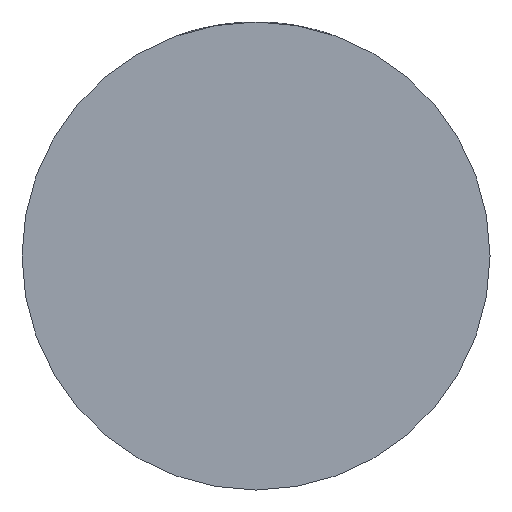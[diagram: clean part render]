
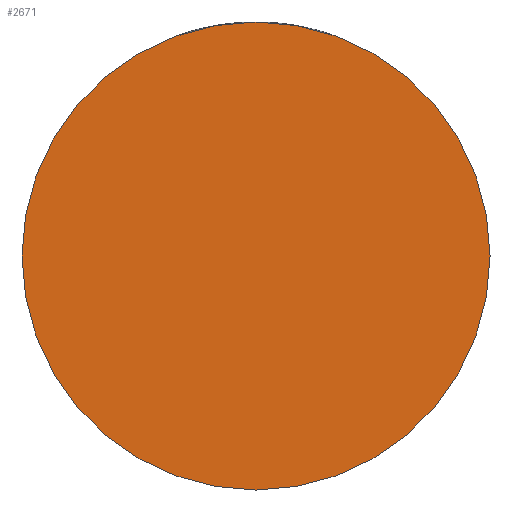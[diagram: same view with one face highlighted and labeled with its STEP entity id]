
A CAD part, front view. The second image highlights one B-rep face of the part: STEP entity #2671.
In plain terms, the highlighted planar face has unit normal (0, -1, 0).
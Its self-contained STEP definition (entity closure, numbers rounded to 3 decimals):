
#72 = EDGE_CURVE ( 'NONE', #3338, #3593, #4277, .T. ) ;
#186 = CIRCLE ( 'NONE', #3207, 26.5 ) ;
#349 = CARTESIAN_POINT ( 'NONE',  ( 0., -22., 0. ) ) ;
#928 = CARTESIAN_POINT ( 'NONE',  ( -26.5, -22., 0. ) ) ;
#1354 = DIRECTION ( 'NONE',  ( 1., 0., 0. ) ) ;
#1406 = FACE_OUTER_BOUND ( 'NONE', #2893, .T. ) ;
#1617 = DIRECTION ( 'NONE',  ( 0., -1., 0. ) ) ;
#1878 = CARTESIAN_POINT ( 'NONE',  ( 26.5, -22., 0. ) ) ;
#2061 = DIRECTION ( 'NONE',  ( 0., -1., 0. ) ) ;
#2337 = CARTESIAN_POINT ( 'NONE',  ( 0., -22., 0. ) ) ;
#2671 = ADVANCED_FACE ( 'NONE', ( #1406 ), #3367, .T. ) ;
#2677 = AXIS2_PLACEMENT_3D ( 'NONE', #3641, #1617, #1354 ) ;
#2705 = DIRECTION ( 'NONE',  ( 0., -1., 0. ) ) ;
#2733 = DIRECTION ( 'NONE',  ( 1., 0., 0. ) ) ;
#2893 = EDGE_LOOP ( 'NONE', ( #3848, #3398 ) ) ;
#3207 = AXIS2_PLACEMENT_3D ( 'NONE', #349, #2705, #4321 ) ;
#3338 = VERTEX_POINT ( 'NONE', #928 ) ;
#3367 = PLANE ( 'NONE',  #3830 ) ;
#3398 = ORIENTED_EDGE ( 'NONE', *, *, #3774, .T. ) ;
#3593 = VERTEX_POINT ( 'NONE', #1878 ) ;
#3641 = CARTESIAN_POINT ( 'NONE',  ( 0., -22., 0. ) ) ;
#3774 = EDGE_CURVE ( 'NONE', #3593, #3338, #186, .T. ) ;
#3830 = AXIS2_PLACEMENT_3D ( 'NONE', #2337, #2061, #2733 ) ;
#3848 = ORIENTED_EDGE ( 'NONE', *, *, #72, .T. ) ;
#4277 = CIRCLE ( 'NONE', #2677, 26.5 ) ;
#4321 = DIRECTION ( 'NONE',  ( 1., 0., 0. ) ) ;
